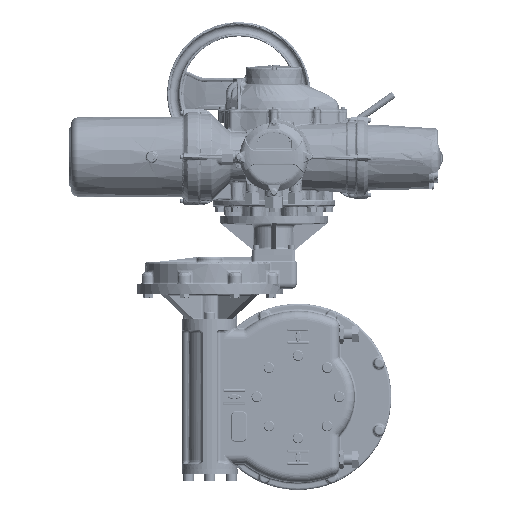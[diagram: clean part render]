
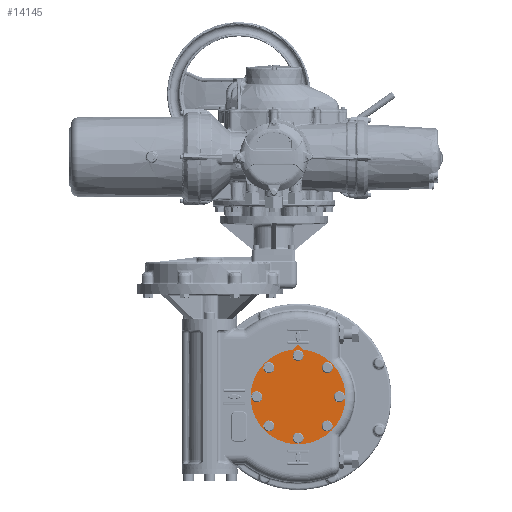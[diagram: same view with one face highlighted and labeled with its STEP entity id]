
A CAD part, front view. The second image highlights one B-rep face of the part: STEP entity #14145.
In plain terms, the highlighted planar face has unit normal (0, -1, 0).
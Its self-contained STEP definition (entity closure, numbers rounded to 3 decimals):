
#14145 = ADVANCED_FACE( '', ( #34873, #34874, #34875, #34876, #34877, #34878, #34879, #34880, #34881 ), #34882, .F. );
#34873 = FACE_BOUND( '', #163074, .T. );
#34874 = FACE_BOUND( '', #163075, .T. );
#34875 = FACE_BOUND( '', #163076, .T. );
#34876 = FACE_BOUND( '', #163077, .T. );
#34877 = FACE_BOUND( '', #163078, .T. );
#34878 = FACE_BOUND( '', #163079, .T. );
#34879 = FACE_BOUND( '', #163080, .T. );
#34880 = FACE_BOUND( '', #163081, .T. );
#34881 = FACE_OUTER_BOUND( '', #163082, .T. );
#34882 = PLANE( '', #163083 );
#163074 = EDGE_LOOP( '', ( #475008 ) );
#163075 = EDGE_LOOP( '', ( #475009 ) );
#163076 = EDGE_LOOP( '', ( #475010 ) );
#163077 = EDGE_LOOP( '', ( #475011 ) );
#163078 = EDGE_LOOP( '', ( #475012 ) );
#163079 = EDGE_LOOP( '', ( #475013 ) );
#163080 = EDGE_LOOP( '', ( #475014 ) );
#163081 = EDGE_LOOP( '', ( #475015 ) );
#163082 = EDGE_LOOP( '', ( #475016, #475017, #475018 ) );
#163083 = AXIS2_PLACEMENT_3D( '', #475019, #475020, #475021 );
#475008 = ORIENTED_EDGE( '', *, *, #539125, .F. );
#475009 = ORIENTED_EDGE( '', *, *, #539126, .F. );
#475010 = ORIENTED_EDGE( '', *, *, #539127, .F. );
#475011 = ORIENTED_EDGE( '', *, *, #528038, .F. );
#475012 = ORIENTED_EDGE( '', *, *, #539128, .F. );
#475013 = ORIENTED_EDGE( '', *, *, #539129, .F. );
#475014 = ORIENTED_EDGE( '', *, *, #539130, .F. );
#475015 = ORIENTED_EDGE( '', *, *, #539131, .F. );
#475016 = ORIENTED_EDGE( '', *, *, #534728, .F. );
#475017 = ORIENTED_EDGE( '', *, *, #539132, .F. );
#475018 = ORIENTED_EDGE( '', *, *, #539133, .F. );
#475019 = CARTESIAN_POINT( '', ( 67.42, -70.25, -668.94 ) );
#475020 = DIRECTION( '', ( 0., 1., 0. ) );
#475021 = DIRECTION( '', ( 0., 0., -1. ) );
#528038 = EDGE_CURVE( '', #558744, #558744, #558745, .T. );
#534728 = EDGE_CURVE( '', #570031, #570033, #570034, .T. );
#539125 = EDGE_CURVE( '', #576816, #576816, #576817, .T. );
#539126 = EDGE_CURVE( '', #576818, #576818, #576819, .T. );
#539127 = EDGE_CURVE( '', #576820, #576820, #576821, .T. );
#539128 = EDGE_CURVE( '', #576822, #576822, #576823, .T. );
#539129 = EDGE_CURVE( '', #576824, #576824, #576825, .T. );
#539130 = EDGE_CURVE( '', #576826, #576826, #576827, .T. );
#539131 = EDGE_CURVE( '', #576828, #576828, #576829, .T. );
#539132 = EDGE_CURVE( '', #576830, #570031, #576831, .T. );
#539133 = EDGE_CURVE( '', #570033, #576830, #576832, .T. );
#558744 = VERTEX_POINT( '', #611316 );
#558745 = CIRCLE( '', #611317, 15.35 );
#570031 = VERTEX_POINT( '', #668431 );
#570033 = VERTEX_POINT( '', #668434 );
#570034 = CIRCLE( '', #668435, 132.5 );
#576816 = VERTEX_POINT( '', #704442 );
#576817 = CIRCLE( '', #704443, 15.35 );
#576818 = VERTEX_POINT( '', #704444 );
#576819 = CIRCLE( '', #704445, 15.35 );
#576820 = VERTEX_POINT( '', #704446 );
#576821 = CIRCLE( '', #704447, 15.35 );
#576822 = VERTEX_POINT( '', #704448 );
#576823 = CIRCLE( '', #704449, 15.35 );
#576824 = VERTEX_POINT( '', #704450 );
#576825 = CIRCLE( '', #704451, 15.35 );
#576826 = VERTEX_POINT( '', #704452 );
#576827 = CIRCLE( '', #704453, 15.35 );
#576828 = VERTEX_POINT( '', #704454 );
#576829 = CIRCLE( '', #704455, 15.35 );
#576830 = VERTEX_POINT( '', #704456 );
#576831 = LINE( '', #704457, #704458 );
#576832 = LINE( '', #704459, #704460 );
#611316 = CARTESIAN_POINT( '', ( 78.274, -70.25, -564.794 ) );
#611317 = AXIS2_PLACEMENT_3D( '', #818452, #818453, #818454 );
#668431 = CARTESIAN_POINT( '', ( 80.575, -70.25, -537.095 ) );
#668434 = CARTESIAN_POINT( '', ( 54.265, -70.25, -537.095 ) );
#668435 = AXIS2_PLACEMENT_3D( '', #825832, #825833, #825834 );
#704442 = CARTESIAN_POINT( '', ( 1.453, -70.25, -587.623 ) );
#704443 = AXIS2_PLACEMENT_3D( '', #830417, #830418, #830419 );
#704444 = CARTESIAN_POINT( '', ( 56.566, -70.25, -773.086 ) );
#704445 = AXIS2_PLACEMENT_3D( '', #830420, #830421, #830422 );
#704446 = CARTESIAN_POINT( '', ( 171.566, -70.25, -679.794 ) );
#704447 = AXIS2_PLACEMENT_3D( '', #830423, #830424, #830425 );
#704448 = CARTESIAN_POINT( '', ( 148.737, -70.25, -602.973 ) );
#704449 = AXIS2_PLACEMENT_3D( '', #830426, #830427, #830428 );
#704450 = CARTESIAN_POINT( '', ( 133.387, -70.25, -750.257 ) );
#704451 = AXIS2_PLACEMENT_3D( '', #830429, #830430, #830431 );
#704452 = CARTESIAN_POINT( '', ( -13.897, -70.25, -734.907 ) );
#704453 = AXIS2_PLACEMENT_3D( '', #830432, #830433, #830434 );
#704454 = CARTESIAN_POINT( '', ( -36.726, -70.25, -658.086 ) );
#704455 = AXIS2_PLACEMENT_3D( '', #830435, #830436, #830437 );
#704456 = CARTESIAN_POINT( '', ( 67.42, -70.25, -523.94 ) );
#704457 = CARTESIAN_POINT( '', ( 67.42, -70.25, -523.94 ) );
#704458 = VECTOR( '', #830438, 1000. );
#704459 = CARTESIAN_POINT( '', ( 54.265, -70.25, -537.095 ) );
#704460 = VECTOR( '', #830439, 1000. );
#818452 = CARTESIAN_POINT( '', ( 67.42, -70.25, -553.94 ) );
#818453 = DIRECTION( '', ( 0., -1., 0. ) );
#818454 = DIRECTION( '', ( 0.707, 0., -0.707 ) );
#825832 = CARTESIAN_POINT( '', ( 67.42, -70.25, -668.94 ) );
#825833 = DIRECTION( '', ( 0., 1., 0. ) );
#825834 = DIRECTION( '', ( 0., 0., 1. ) );
#830417 = CARTESIAN_POINT( '', ( -13.897, -70.25, -587.623 ) );
#830418 = DIRECTION( '', ( 0., -1., 0. ) );
#830419 = DIRECTION( '', ( 1., 0., 0. ) );
#830420 = CARTESIAN_POINT( '', ( 67.42, -70.25, -783.94 ) );
#830421 = DIRECTION( '', ( 0., -1., 0. ) );
#830422 = DIRECTION( '', ( -0.707, 0., 0.707 ) );
#830423 = CARTESIAN_POINT( '', ( 182.42, -70.25, -668.94 ) );
#830424 = DIRECTION( '', ( 0., -1., 0. ) );
#830425 = DIRECTION( '', ( -0.707, 0., -0.707 ) );
#830426 = CARTESIAN_POINT( '', ( 148.737, -70.25, -587.623 ) );
#830427 = DIRECTION( '', ( 0., -1., 0. ) );
#830428 = DIRECTION( '', ( 0., 0., -1. ) );
#830429 = CARTESIAN_POINT( '', ( 148.737, -70.25, -750.257 ) );
#830430 = DIRECTION( '', ( 0., -1., 0. ) );
#830431 = DIRECTION( '', ( -1., 0., 0. ) );
#830432 = CARTESIAN_POINT( '', ( -13.897, -70.25, -750.257 ) );
#830433 = DIRECTION( '', ( 0., -1., 0. ) );
#830434 = DIRECTION( '', ( 0., 0., 1. ) );
#830435 = CARTESIAN_POINT( '', ( -47.58, -70.25, -668.94 ) );
#830436 = DIRECTION( '', ( 0., -1., 0. ) );
#830437 = DIRECTION( '', ( 0.707, 0., 0.707 ) );
#830438 = DIRECTION( '', ( 0.707, 0., -0.707 ) );
#830439 = DIRECTION( '', ( 0.707, 0., 0.707 ) );
